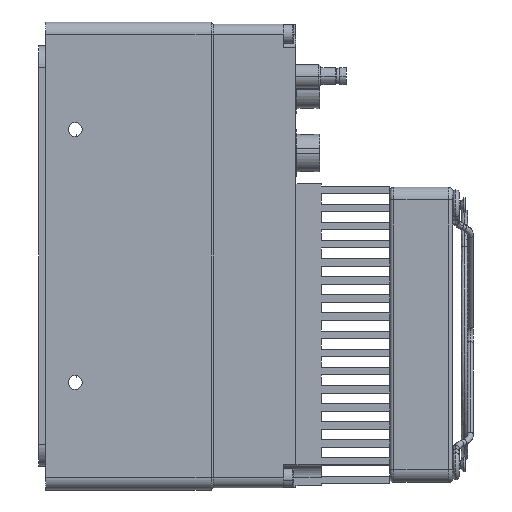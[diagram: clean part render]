
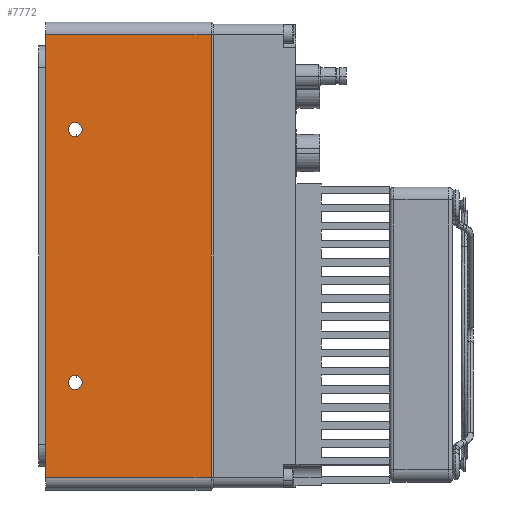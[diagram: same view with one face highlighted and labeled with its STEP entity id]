
A CAD part, left-side view. The second image highlights one B-rep face of the part: STEP entity #7772.
In plain terms, the highlighted planar face has unit normal (-1, 0, 0).
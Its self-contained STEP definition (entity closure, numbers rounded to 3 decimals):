
#77 = DIRECTION ( 'NONE',  ( 0., 0., 1. ) ) ;
#707 = DIRECTION ( 'NONE',  ( -1., 0., 0. ) ) ;
#822 = CARTESIAN_POINT ( 'NONE',  ( -77.89, 7.666, 160. ) ) ;
#1221 = CARTESIAN_POINT ( 'NONE',  ( -77.89, 7.666, 158.35 ) ) ;
#1360 = ORIENTED_EDGE ( 'NONE', *, *, #14984, .F. ) ;
#1434 = ORIENTED_EDGE ( 'NONE', *, *, #10328, .T. ) ;
#1468 = DIRECTION ( 'NONE',  ( 1., 0., 0. ) ) ;
#1600 = EDGE_LOOP ( 'NONE', ( #26964, #25057, #1434, #28050 ) ) ;
#1951 = LINE ( 'NONE', #4723, #16658 ) ;
#2329 = LINE ( 'NONE', #3253, #21593 ) ;
#2808 = DIRECTION ( 'NONE',  ( 0., 1., 0. ) ) ;
#2843 = CARTESIAN_POINT ( 'NONE',  ( -77.89, 7.666, 101.65 ) ) ;
#3253 = CARTESIAN_POINT ( 'NONE',  ( -77.89, 11.616, 182.5 ) ) ;
#3410 = VECTOR ( 'NONE', #21276, 1000. ) ;
#3983 = CARTESIAN_POINT ( 'NONE',  ( -77.89, -24.554, 77.5 ) ) ;
#4650 = CARTESIAN_POINT ( 'NONE',  ( -77.89, -24.554, 182.5 ) ) ;
#4723 = CARTESIAN_POINT ( 'NONE',  ( -77.89, 11.616, 77.5 ) ) ;
#5102 = DIRECTION ( 'NONE',  ( 0., 0., 1. ) ) ;
#5319 = VERTEX_POINT ( 'NONE', #11493 ) ;
#5333 = CARTESIAN_POINT ( 'NONE',  ( -77.89, 7.666, 100. ) ) ;
#5493 = CIRCLE ( 'NONE', #31683, 1.65 ) ;
#6784 = LINE ( 'NONE', #21179, #33114 ) ;
#7146 = DIRECTION ( 'NONE',  ( 0., 0., 1. ) ) ;
#7556 = VERTEX_POINT ( 'NONE', #2843 ) ;
#7772 = ADVANCED_FACE ( 'NONE', ( #31618, #16780, #8962 ), #22184, .F. ) ;
#8795 = EDGE_CURVE ( 'NONE', #7556, #28864, #23313, .T. ) ;
#8902 = DIRECTION ( 'NONE',  ( -1., 0., 0. ) ) ;
#8962 = FACE_OUTER_BOUND ( 'NONE', #1600, .T. ) ;
#10328 = EDGE_CURVE ( 'NONE', #5319, #31516, #1951, .T. ) ;
#10889 = EDGE_CURVE ( 'NONE', #31516, #33046, #6784, .T. ) ;
#11094 = DIRECTION ( 'NONE',  ( 0., 0., 1. ) ) ;
#11493 = CARTESIAN_POINT ( 'NONE',  ( -77.89, 14.666, 77.5 ) ) ;
#11641 = CARTESIAN_POINT ( 'NONE',  ( -77.89, 7.666, 100. ) ) ;
#12404 = DIRECTION ( 'NONE',  ( -1., 0., 0. ) ) ;
#13263 = VERTEX_POINT ( 'NONE', #33492 ) ;
#14984 = EDGE_CURVE ( 'NONE', #13263, #29271, #24264, .T. ) ;
#16280 = AXIS2_PLACEMENT_3D ( 'NONE', #5333, #18055, #5102 ) ;
#16334 = ORIENTED_EDGE ( 'NONE', *, *, #17741, .F. ) ;
#16658 = VECTOR ( 'NONE', #28610, 1000. ) ;
#16780 = FACE_BOUND ( 'NONE', #19038, .T. ) ;
#17506 = CARTESIAN_POINT ( 'NONE',  ( -77.89, 7.666, 98.35 ) ) ;
#17741 = EDGE_CURVE ( 'NONE', #28864, #7556, #25095, .T. ) ;
#17766 = LINE ( 'NONE', #23815, #3410 ) ;
#18055 = DIRECTION ( 'NONE',  ( -1., 0., 0. ) ) ;
#18062 = ORIENTED_EDGE ( 'NONE', *, *, #8795, .F. ) ;
#18198 = EDGE_LOOP ( 'NONE', ( #18062, #16334 ) ) ;
#19038 = EDGE_LOOP ( 'NONE', ( #1360, #19445 ) ) ;
#19445 = ORIENTED_EDGE ( 'NONE', *, *, #27271, .F. ) ;
#20581 = VERTEX_POINT ( 'NONE', #23205 ) ;
#21179 = CARTESIAN_POINT ( 'NONE',  ( -77.89, -24.554, 182. ) ) ;
#21276 = DIRECTION ( 'NONE',  ( 0., 0., -1. ) ) ;
#21507 = CARTESIAN_POINT ( 'NONE',  ( -77.89, 11.616, 185. ) ) ;
#21593 = VECTOR ( 'NONE', #2808, 1000. ) ;
#21996 = DIRECTION ( 'NONE',  ( 0., 0., 1. ) ) ;
#22184 = PLANE ( 'NONE',  #25286 ) ;
#23205 = CARTESIAN_POINT ( 'NONE',  ( -77.89, 14.666, 182.5 ) ) ;
#23313 = CIRCLE ( 'NONE', #29248, 1.65 ) ;
#23815 = CARTESIAN_POINT ( 'NONE',  ( -77.89, 14.666, 185. ) ) ;
#24264 = CIRCLE ( 'NONE', #33421, 1.65 ) ;
#25057 = ORIENTED_EDGE ( 'NONE', *, *, #33306, .T. ) ;
#25095 = CIRCLE ( 'NONE', #16280, 1.65 ) ;
#25286 = AXIS2_PLACEMENT_3D ( 'NONE', #21507, #1468, #27734 ) ;
#26964 = ORIENTED_EDGE ( 'NONE', *, *, #31217, .T. ) ;
#27271 = EDGE_CURVE ( 'NONE', #29271, #13263, #5493, .T. ) ;
#27734 = DIRECTION ( 'NONE',  ( 0., 0., -1. ) ) ;
#28050 = ORIENTED_EDGE ( 'NONE', *, *, #10889, .T. ) ;
#28610 = DIRECTION ( 'NONE',  ( 0., -1., 0. ) ) ;
#28864 = VERTEX_POINT ( 'NONE', #17506 ) ;
#29248 = AXIS2_PLACEMENT_3D ( 'NONE', #11641, #8902, #21996 ) ;
#29271 = VERTEX_POINT ( 'NONE', #1221 ) ;
#31217 = EDGE_CURVE ( 'NONE', #33046, #20581, #2329, .T. ) ;
#31516 = VERTEX_POINT ( 'NONE', #3983 ) ;
#31618 = FACE_BOUND ( 'NONE', #18198, .T. ) ;
#31683 = AXIS2_PLACEMENT_3D ( 'NONE', #33470, #12404, #7146 ) ;
#33046 = VERTEX_POINT ( 'NONE', #4650 ) ;
#33114 = VECTOR ( 'NONE', #77, 1000. ) ;
#33306 = EDGE_CURVE ( 'NONE', #20581, #5319, #17766, .T. ) ;
#33421 = AXIS2_PLACEMENT_3D ( 'NONE', #822, #707, #11094 ) ;
#33470 = CARTESIAN_POINT ( 'NONE',  ( -77.89, 7.666, 160. ) ) ;
#33492 = CARTESIAN_POINT ( 'NONE',  ( -77.89, 7.666, 161.65 ) ) ;
